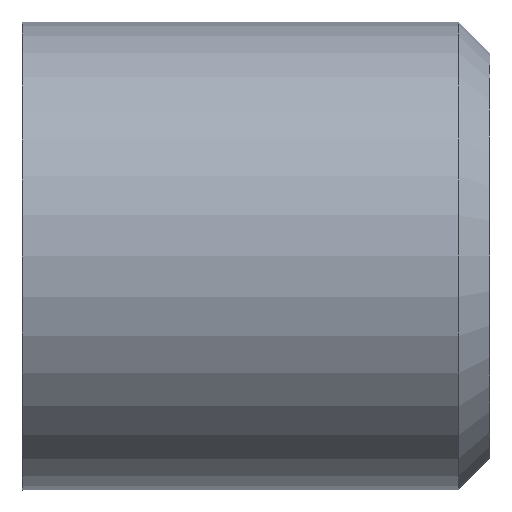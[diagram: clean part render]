
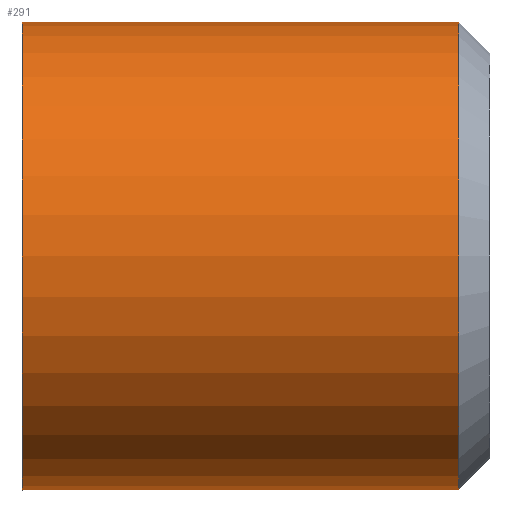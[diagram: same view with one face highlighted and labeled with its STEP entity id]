
A CAD part, front view. The second image highlights one B-rep face of the part: STEP entity #291.
In plain terms, the highlighted cylindrical face has radius 7.5 mm (diameter 15 mm), a partial arc.
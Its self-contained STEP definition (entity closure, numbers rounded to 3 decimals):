
#47 = VERTEX_POINT ( 'NONE', #1876 ) ;
#53 = VERTEX_POINT ( 'NONE', #413 ) ;
#102 = EDGE_CURVE ( 'NONE', #53, #47, #1995, .T. ) ;
#103 = VERTEX_POINT ( 'NONE', #2043 ) ;
#111 = VERTEX_POINT ( 'NONE', #2034 ) ;
#157 = EDGE_CURVE ( 'NONE', #103, #111, #2154, .T. ) ;
#290 = EDGE_CURVE ( 'NONE', #47, #111, #2483, .T. ) ;
#291 = ADVANCED_FACE ( 'NONE', ( #2473 ), #2472, .T. ) ;
#292 = EDGE_LOOP ( 'NONE', ( #293, #294, #295, #296 ) ) ;
#293 = ORIENTED_EDGE ( 'NONE', *, *, #157, .F. ) ;
#294 = ORIENTED_EDGE ( 'NONE', *, *, #315, .T. ) ;
#295 = ORIENTED_EDGE ( 'NONE', *, *, #102, .T. ) ;
#296 = ORIENTED_EDGE ( 'NONE', *, *, #290, .T. ) ;
#315 = EDGE_CURVE ( 'NONE', #103, #53, #3869, .T. ) ;
#413 = CARTESIAN_POINT ( 'NONE',  ( -7.5, 0., -7.5 ) ) ;
#1876 = CARTESIAN_POINT ( 'NONE',  ( 6.5, 0., -7.5 ) ) ;
#1992 = DIRECTION ( 'NONE',  ( 1., 0., 0. ) ) ;
#1993 = VECTOR ( 'NONE', #1992, 1000. ) ;
#1994 = CARTESIAN_POINT ( 'NONE',  ( -0.5, 0., -7.5 ) ) ;
#1995 = LINE ( 'NONE', #1994, #1993 ) ;
#2034 = CARTESIAN_POINT ( 'NONE',  ( 6.5, 0., 7.5 ) ) ;
#2043 = CARTESIAN_POINT ( 'NONE',  ( -7.5, 0., 7.5 ) ) ;
#2142 = DIRECTION ( 'NONE',  ( 1., 0., 0. ) ) ;
#2143 = VECTOR ( 'NONE', #2142, 1000. ) ;
#2144 = CARTESIAN_POINT ( 'NONE',  ( -0.5, 0., 7.5 ) ) ;
#2154 = LINE ( 'NONE', #2144, #2143 ) ;
#2467 = DIRECTION ( 'NONE',  ( 0., 0., -1. ) ) ;
#2468 = DIRECTION ( 'NONE',  ( 1., 0., 0. ) ) ;
#2469 = CARTESIAN_POINT ( 'NONE',  ( -0.5, 0., 0. ) ) ;
#2470 = AXIS2_PLACEMENT_3D ( 'NONE', #2469, #2468, #2467 ) ;
#2472 = CYLINDRICAL_SURFACE ( 'NONE', #2470, 7.5 ) ;
#2473 = FACE_OUTER_BOUND ( 'NONE', #292, .T. ) ;
#2474 = DIRECTION ( 'NONE',  ( 0., 0., -1. ) ) ;
#2475 = DIRECTION ( 'NONE',  ( -1., 0., 0. ) ) ;
#2476 = CARTESIAN_POINT ( 'NONE',  ( 6.5, 0., 0. ) ) ;
#2477 = AXIS2_PLACEMENT_3D ( 'NONE', #2476, #2475, #2474 ) ;
#2483 = CIRCLE ( 'NONE', #2477, 7.5 ) ;
#3865 = DIRECTION ( 'NONE',  ( 0., 0., -1. ) ) ;
#3866 = DIRECTION ( 'NONE',  ( 1., 0., 0. ) ) ;
#3867 = CARTESIAN_POINT ( 'NONE',  ( -7.5, 0., 0. ) ) ;
#3868 = AXIS2_PLACEMENT_3D ( 'NONE', #3867, #3866, #3865 ) ;
#3869 = CIRCLE ( 'NONE', #3868, 7.5 ) ;
